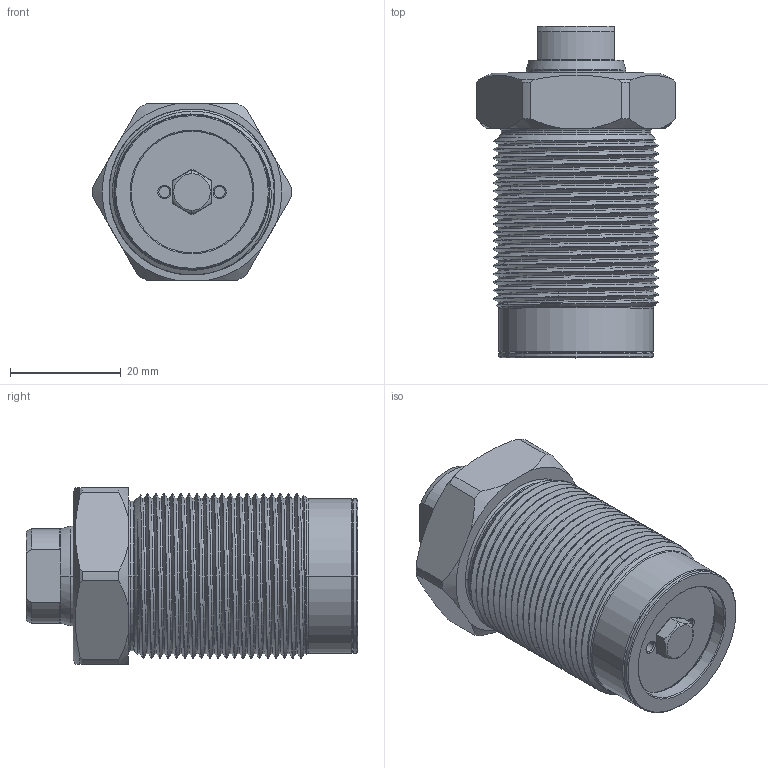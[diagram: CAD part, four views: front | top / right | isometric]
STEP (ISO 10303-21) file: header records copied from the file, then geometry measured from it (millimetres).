
FILE_DESCRIPTION((''),'2;1');
FILE_NAME('SIMP_PUSH_CYLINDER_30__ASM','2023-04-17T09:46:31',('Design 2'),(''),'CREO PARAMETRIC BY PTC INC, 2020053','CREO PARAMETRIC BY PTC INC, 2020053','');
FILE_SCHEMA(('CONFIG_CONTROL_DESIGN'));
Length unit declared in the file: millimetre
Products named in the file (6): THREADED_BODY____; ROD__; WASHER__; PISTON___ASM; COPPER_WASHER_30_; SIMP_PUSH_CYLINDER_30__ASM
Assembly tree (5 placements, depth 3):
  SIMP_PUSH_CYLINDER_30__ASM
    THREADED_BODY____
    PISTON___ASM
      ROD__
      WASHER__
    COPPER_WASHER_30_
Bounding box: 36 x 60 x 32 mm (x, y, z)
Volume: 34762.4 mm3; surface area: 16879.5 mm2
Topology: 4 solids, 4 shells, 211 faces, 521 edges, 326 vertices
Faces by surface type: cylinder 95, cone 45, plane 33, bspline 24, torus 12, sphere 2
Entity records: 15726 total; most frequent: CARTESIAN_POINT 10881, ORIENTED_EDGE 1042, DIRECTION 896, EDGE_CURVE 521, AXIS2_PLACEMENT_3D 360, VERTEX_POINT 326, EDGE_LOOP 227, FACE_OUTER_BOUND 211
